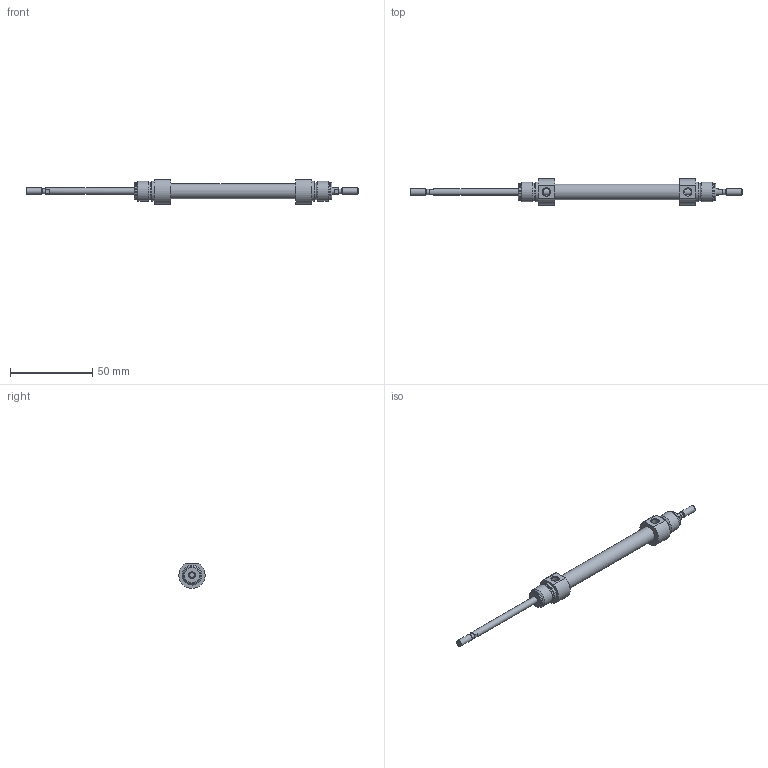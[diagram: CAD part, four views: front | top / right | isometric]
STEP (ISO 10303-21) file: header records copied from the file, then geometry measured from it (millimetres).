
FILE_DESCRIPTION( ( 'STEP AP203' ), '1' );
FILE_NAME( '//expscmdclustefs.cadenas.external/client_exchange/iodir/jobs/output/wkb68261363_no0/STEP/M101-08-0050--__0__2_03.stp', ' ', ( ' ' ), ( ' ' ), 'PSStep 15.0.47', 'PARTsolutions', ' ' );
FILE_SCHEMA( ( 'CONFIG_CONTROL_DESIGN' ) );
Length unit declared in the file: millimetre
Products named in the file (3): M101-08-0050-- [0]; HI_M101-08-0050---[0]-z; HI_M101-08-0050---[0]-k
Assembly tree (2 placements, depth 2):
  M101-08-0050-- [0]
    HI_M101-08-0050---[0]-z
    HI_M101-08-0050---[0]-k
Bounding box: 202 x 15.98 x 14.97 mm (x, y, z)
Volume: 10591.4 mm3; surface area: 9776.7 mm2
Topology: 2 solids, 2 shells, 71 faces, 145 edges, 88 vertices
Faces by surface type: plane 32, cylinder 23, cone 14, torus 2
Full cylindrical faces by diameter (mm): 3.141 x2, 4 x6, 4.134 x2, 8 x2, 9.3 x1, 10.466 x4, 12 x4
Entity records: 1838 total; most frequent: CARTESIAN_POINT 358, DIRECTION 312, ORIENTED_EDGE 212, AXIS2_PLACEMENT_3D 140, EDGE_LOOP 120, EDGE_CURVE 106, FACE_OUTER_BOUND 94, VERTEX_POINT 82
